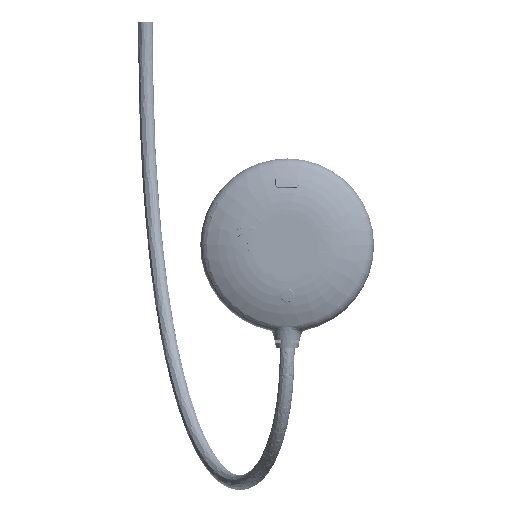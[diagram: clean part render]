
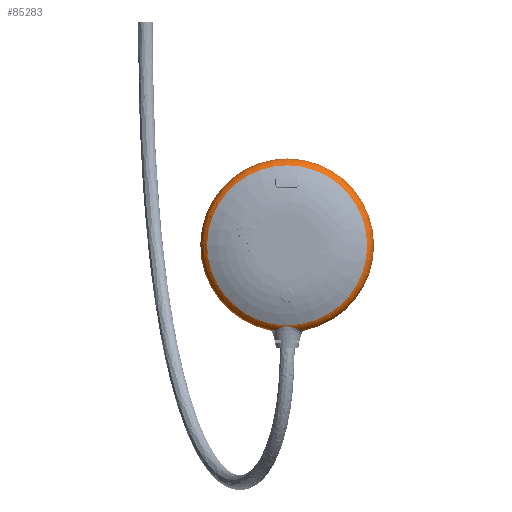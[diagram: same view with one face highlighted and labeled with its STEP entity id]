
A CAD part, top view. The second image highlights one B-rep face of the part: STEP entity #85283.
In plain terms, the highlighted toroidal (fillet/blend) face has major radius 24 mm and minor radius 4 mm.
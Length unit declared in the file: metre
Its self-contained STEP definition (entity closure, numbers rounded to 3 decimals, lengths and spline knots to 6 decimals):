
#368=TOROIDAL_SURFACE('',#94530,0.024,0.004);
#23357=CIRCLE('',#94507,0.025798);
#23365=CIRCLE('',#94529,0.028);
#26256=B_SPLINE_CURVE_WITH_KNOTS('',3,(#149671,#149672,#149673,#149674,
#149675,#149676,#149677,#149678,#149679,#149680,#149681,#149682,#149683,
#149684,#149685,#149686,#149687,#149688,#149689,#149690,#149691,#149692,
#149693,#149694,#149695),.UNSPECIFIED.,.F.,.F.,(4,1,1,1,1,1,1,1,1,1,1,1,
1,1,1,1,1,1,1,1,1,1,4),(0.,0.0625,0.125,0.1875,0.25,0.3125,0.34375,0.375,
0.40625,0.4375,0.46875,0.5,0.53125,0.5625,0.59375,0.625,0.65625,0.6875,
0.75,0.8125,0.875,0.9375,1.),.UNSPECIFIED.);
#43134=ORIENTED_EDGE('',*,*,#59289,.F.);
#43135=ORIENTED_EDGE('',*,*,#59300,.T.);
#43136=ORIENTED_EDGE('',*,*,#59255,.T.);
#59255=EDGE_CURVE('',#68659,#68679,#26256,.T.);
#59289=EDGE_CURVE('',#68690,#68690,#23357,.T.);
#59300=EDGE_CURVE('',#68679,#68659,#23365,.T.);
#68659=VERTEX_POINT('',#149377);
#68679=VERTEX_POINT('',#149552);
#68690=VERTEX_POINT('',#149781);
#74875=EDGE_LOOP('',(#43134));
#74876=EDGE_LOOP('',(#43135,#43136));
#80140=FACE_BOUND('',#74875,.T.);
#80141=FACE_BOUND('',#74876,.T.);
#85283=ADVANCED_FACE('',(#80140,#80141),#368,.T.);
#94507=AXIS2_PLACEMENT_3D('',#149780,#113519,#113520);
#94529=AXIS2_PLACEMENT_3D('',#149822,#113565,#113566);
#94530=AXIS2_PLACEMENT_3D('',#149823,#113567,#113568);
#113519=DIRECTION('',(0.,0.,1.));
#113520=DIRECTION('',(1.,0.,0.));
#113565=DIRECTION('',(0.,0.,1.));
#113566=DIRECTION('',(1.,0.,0.));
#113567=DIRECTION('',(0.,0.,1.));
#113568=DIRECTION('',(1.,0.,0.));
#149377=CARTESIAN_POINT('',(0.026553,0.009035,0.002686));
#149552=CARTESIAN_POINT('',(0.037447,0.009035,0.002686));
#149671=CARTESIAN_POINT('',(0.026553,0.009035,0.002686));
#149672=CARTESIAN_POINT('',(0.026671,0.009012,0.002944));
#149673=CARTESIAN_POINT('',(0.026947,0.009008,0.003443));
#149674=CARTESIAN_POINT('',(0.027508,0.00912,0.004145));
#149675=CARTESIAN_POINT('',(0.028109,0.009302,0.004702));
#149676=CARTESIAN_POINT('',(0.028825,0.009556,0.0052));
#149677=CARTESIAN_POINT('',(0.029412,0.00978,0.005509));
#149678=CARTESIAN_POINT('',(0.029953,0.009981,0.005731));
#149679=CARTESIAN_POINT('',(0.030311,0.010109,0.005855));
#149680=CARTESIAN_POINT('',(0.030762,0.010253,0.005977));
#149681=CARTESIAN_POINT('',(0.031127,0.010349,0.006051));
#149682=CARTESIAN_POINT('',(0.031592,0.010433,0.00611));
#149683=CARTESIAN_POINT('',(0.032006,0.010456,0.006125));
#149684=CARTESIAN_POINT('',(0.032419,0.010432,0.006109));
#149685=CARTESIAN_POINT('',(0.032883,0.010347,0.006049));
#149686=CARTESIAN_POINT('',(0.033247,0.01025,0.005975));
#149687=CARTESIAN_POINT('',(0.033697,0.010106,0.005852));
#149688=CARTESIAN_POINT('',(0.034053,0.009979,0.005729));
#149689=CARTESIAN_POINT('',(0.034592,0.009779,0.005507));
#149690=CARTESIAN_POINT('',(0.035176,0.009556,0.0052));
#149691=CARTESIAN_POINT('',(0.035891,0.009302,0.004702));
#149692=CARTESIAN_POINT('',(0.03649,0.00912,0.004147));
#149693=CARTESIAN_POINT('',(0.037053,0.009008,0.003444));
#149694=CARTESIAN_POINT('',(0.037329,0.009012,0.002944));
#149695=CARTESIAN_POINT('',(0.037447,0.009035,0.002686));
#149780=CARTESIAN_POINT('',(0.032,0.0365,0.006259));
#149781=CARTESIAN_POINT('',(0.057798,0.0365,0.006259));
#149822=CARTESIAN_POINT('',(0.032,0.0365,0.002686));
#149823=CARTESIAN_POINT('',(0.032,0.0365,0.002686));
